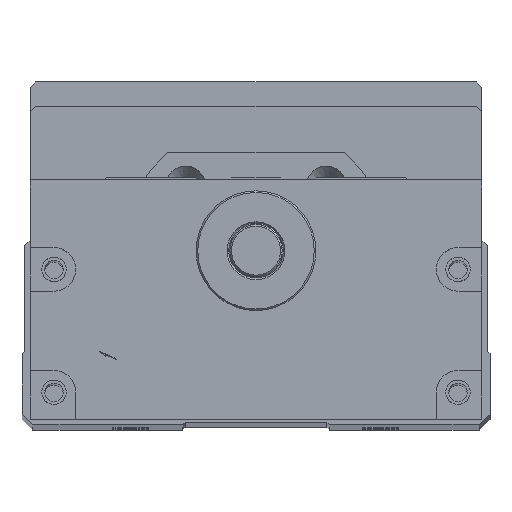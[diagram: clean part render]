
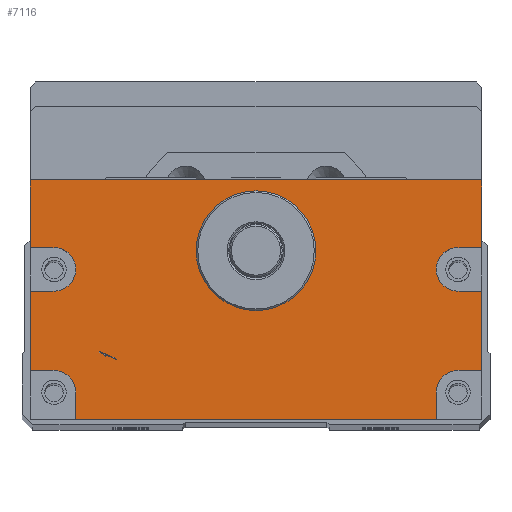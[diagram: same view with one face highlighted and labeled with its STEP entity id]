
A CAD part, top view. The second image highlights one B-rep face of the part: STEP entity #7116.
In plain terms, the highlighted planar face has unit normal (0, 0, 1).
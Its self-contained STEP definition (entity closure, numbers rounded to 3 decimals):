
#545=LINE('',#28115,#1277);
#547=LINE('',#28119,#1279);
#548=LINE('',#28122,#1280);
#549=LINE('',#28124,#1281);
#550=LINE('',#28128,#1282);
#551=LINE('',#28130,#1283);
#552=LINE('',#28131,#1284);
#553=LINE('',#28133,#1285);
#554=LINE('',#28137,#1286);
#555=LINE('',#28139,#1287);
#556=LINE('',#28141,#1288);
#557=LINE('',#28145,#1289);
#558=LINE('',#28147,#1290);
#559=LINE('',#28149,#1291);
#1277=VECTOR('',#16648,1.);
#1279=VECTOR('',#16652,1.);
#1280=VECTOR('',#16653,1.);
#1281=VECTOR('',#16654,1.);
#1282=VECTOR('',#16657,1.);
#1283=VECTOR('',#16658,1.);
#1284=VECTOR('',#16659,1.);
#1285=VECTOR('',#16660,1.);
#1286=VECTOR('',#16663,1.);
#1287=VECTOR('',#16664,1.);
#1288=VECTOR('',#16665,1.);
#1289=VECTOR('',#16668,1.);
#1290=VECTOR('',#16669,1.);
#1291=VECTOR('',#16670,1.);
#6624=FACE_BOUND('',#8550,.T.);
#6625=FACE_BOUND('',#8551,.T.);
#7116=ADVANCED_FACE('',(#6624,#6625),#7609,.T.);
#7609=PLANE('',#15125);
#8550=EDGE_LOOP('',(#10047,#10048,#10049,#10050,#10051,#10052,#10053,#10054,
#10055,#10056,#10057,#10058,#10059,#10060,#10061,#10062,#10063,#10064));
#8551=EDGE_LOOP('',(#10065));
#10047=ORIENTED_EDGE('',*,*,#13421,.F.);
#10048=ORIENTED_EDGE('',*,*,#13422,.T.);
#10049=ORIENTED_EDGE('',*,*,#13423,.F.);
#10050=ORIENTED_EDGE('',*,*,#13424,.F.);
#10051=ORIENTED_EDGE('',*,*,#13425,.F.);
#10052=ORIENTED_EDGE('',*,*,#13426,.T.);
#10053=ORIENTED_EDGE('',*,*,#13419,.T.);
#10054=ORIENTED_EDGE('',*,*,#13427,.T.);
#10055=ORIENTED_EDGE('',*,*,#13428,.F.);
#10056=ORIENTED_EDGE('',*,*,#13429,.F.);
#10057=ORIENTED_EDGE('',*,*,#13430,.F.);
#10058=ORIENTED_EDGE('',*,*,#13431,.T.);
#10059=ORIENTED_EDGE('',*,*,#13432,.F.);
#10060=ORIENTED_EDGE('',*,*,#13433,.F.);
#10061=ORIENTED_EDGE('',*,*,#13434,.F.);
#10062=ORIENTED_EDGE('',*,*,#13435,.T.);
#10063=ORIENTED_EDGE('',*,*,#13436,.F.);
#10064=ORIENTED_EDGE('',*,*,#13437,.F.);
#10065=ORIENTED_EDGE('',*,*,#13405,.T.);
#12270=VERTEX_POINT('',#28086);
#12283=VERTEX_POINT('',#28114);
#12284=VERTEX_POINT('',#28116);
#12285=VERTEX_POINT('',#28120);
#12286=VERTEX_POINT('',#28121);
#12287=VERTEX_POINT('',#28123);
#12288=VERTEX_POINT('',#28125);
#12289=VERTEX_POINT('',#28127);
#12290=VERTEX_POINT('',#28129);
#12291=VERTEX_POINT('',#28132);
#12292=VERTEX_POINT('',#28134);
#12293=VERTEX_POINT('',#28136);
#12294=VERTEX_POINT('',#28138);
#12295=VERTEX_POINT('',#28140);
#12296=VERTEX_POINT('',#28142);
#12297=VERTEX_POINT('',#28144);
#12298=VERTEX_POINT('',#28146);
#12299=VERTEX_POINT('',#28148);
#12300=VERTEX_POINT('',#28150);
#13405=EDGE_CURVE('',#12270,#12270,#14506,.T.);
#13419=EDGE_CURVE('',#12284,#12283,#545,.T.);
#13421=EDGE_CURVE('',#12285,#12286,#547,.T.);
#13422=EDGE_CURVE('',#12285,#12287,#548,.T.);
#13423=EDGE_CURVE('',#12288,#12287,#549,.T.);
#13424=EDGE_CURVE('',#12289,#12288,#14515,.T.);
#13425=EDGE_CURVE('',#12290,#12289,#550,.T.);
#13426=EDGE_CURVE('',#12290,#12284,#551,.T.);
#13427=EDGE_CURVE('',#12283,#12291,#552,.T.);
#13428=EDGE_CURVE('',#12292,#12291,#553,.T.);
#13429=EDGE_CURVE('',#12293,#12292,#14516,.T.);
#13430=EDGE_CURVE('',#12294,#12293,#554,.T.);
#13431=EDGE_CURVE('',#12294,#12295,#555,.T.);
#13432=EDGE_CURVE('',#12296,#12295,#556,.T.);
#13433=EDGE_CURVE('',#12297,#12296,#14517,.T.);
#13434=EDGE_CURVE('',#12298,#12297,#557,.T.);
#13435=EDGE_CURVE('',#12298,#12299,#558,.T.);
#13436=EDGE_CURVE('',#12300,#12299,#559,.T.);
#13437=EDGE_CURVE('',#12286,#12300,#14518,.T.);
#14506=CIRCLE('',#15109,11.);
#14515=CIRCLE('',#15121,4.);
#14516=CIRCLE('',#15122,4.);
#14517=CIRCLE('',#15123,4.);
#14518=CIRCLE('',#15124,4.);
#15109=AXIS2_PLACEMENT_3D('',#28085,#16621,#16622);
#15121=AXIS2_PLACEMENT_3D('',#28126,#16655,#16656);
#15122=AXIS2_PLACEMENT_3D('',#28135,#16661,#16662);
#15123=AXIS2_PLACEMENT_3D('',#28143,#16666,#16667);
#15124=AXIS2_PLACEMENT_3D('',#28151,#16671,#16672);
#15125=AXIS2_PLACEMENT_3D('',#28152,#16673,#16674);
#16621=DIRECTION('',(0.,0.,-1.));
#16622=DIRECTION('',(1.,0.,0.));
#16648=DIRECTION('',(-1.,0.,0.));
#16652=DIRECTION('',(-1.,0.,0.));
#16653=DIRECTION('',(0.,1.,0.));
#16654=DIRECTION('',(1.,0.,0.));
#16655=DIRECTION('',(0.,0.,1.));
#16656=DIRECTION('',(1.,0.,0.));
#16657=DIRECTION('',(-1.,0.,0.));
#16658=DIRECTION('',(0.,1.,0.));
#16659=DIRECTION('',(0.,-1.,0.));
#16660=DIRECTION('',(-1.,0.,0.));
#16661=DIRECTION('',(0.,0.,1.));
#16662=DIRECTION('',(1.,0.,0.));
#16663=DIRECTION('',(1.,0.,0.));
#16664=DIRECTION('',(0.,-1.,0.));
#16665=DIRECTION('',(-1.,0.,0.));
#16666=DIRECTION('',(0.,0.,1.));
#16667=DIRECTION('',(1.,0.,0.));
#16668=DIRECTION('',(0.,1.,0.));
#16669=DIRECTION('',(1.,0.,0.));
#16670=DIRECTION('',(0.,-1.,0.));
#16671=DIRECTION('',(0.,0.,1.));
#16672=DIRECTION('',(1.,0.,0.));
#16673=DIRECTION('',(0.,0.,1.));
#16674=DIRECTION('',(-1.,0.,0.));
#28085=CARTESIAN_POINT('',(450.,0.,382.5));
#28086=CARTESIAN_POINT('',(461.,0.,382.5));
#28114=CARTESIAN_POINT('',(408.5,13.,382.5));
#28115=CARTESIAN_POINT('',(491.5,13.,382.5));
#28116=CARTESIAN_POINT('',(491.5,13.,382.5));
#28119=CARTESIAN_POINT('',(491.5,-22.,382.5));
#28120=CARTESIAN_POINT('',(491.5,-22.,382.5));
#28121=CARTESIAN_POINT('',(487.115,-22.,382.5));
#28122=CARTESIAN_POINT('',(491.5,-31.,382.5));
#28123=CARTESIAN_POINT('',(491.5,-7.431,382.5));
#28124=CARTESIAN_POINT('',(491.5,-7.431,382.5));
#28125=CARTESIAN_POINT('',(487.115,-7.431,382.5));
#28126=CARTESIAN_POINT('',(487.115,-3.431,382.5));
#28127=CARTESIAN_POINT('',(487.115,0.569,382.5));
#28128=CARTESIAN_POINT('',(491.5,0.569,382.5));
#28129=CARTESIAN_POINT('',(491.5,0.569,382.5));
#28130=CARTESIAN_POINT('',(491.5,-31.,382.5));
#28131=CARTESIAN_POINT('',(408.5,27.5,382.5));
#28132=CARTESIAN_POINT('',(408.5,0.569,382.5));
#28133=CARTESIAN_POINT('',(491.5,0.569,382.5));
#28134=CARTESIAN_POINT('',(412.885,0.569,382.5));
#28135=CARTESIAN_POINT('',(412.885,-3.431,382.5));
#28136=CARTESIAN_POINT('',(412.885,-7.431,382.5));
#28137=CARTESIAN_POINT('',(491.5,-7.431,382.5));
#28138=CARTESIAN_POINT('',(408.5,-7.431,382.5));
#28139=CARTESIAN_POINT('',(408.5,27.5,382.5));
#28140=CARTESIAN_POINT('',(408.5,-22.,382.5));
#28141=CARTESIAN_POINT('',(491.5,-22.,382.5));
#28142=CARTESIAN_POINT('',(412.885,-22.,382.5));
#28143=CARTESIAN_POINT('',(412.885,-26.,382.5));
#28144=CARTESIAN_POINT('',(416.885,-26.,382.5));
#28145=CARTESIAN_POINT('',(416.885,-31.,382.5));
#28146=CARTESIAN_POINT('',(416.885,-31.,382.5));
#28147=CARTESIAN_POINT('',(408.5,-31.,382.5));
#28148=CARTESIAN_POINT('',(483.115,-31.,382.5));
#28149=CARTESIAN_POINT('',(483.115,-31.,382.5));
#28150=CARTESIAN_POINT('',(483.115,-26.,382.5));
#28151=CARTESIAN_POINT('',(487.115,-26.,382.5));
#28152=CARTESIAN_POINT('',(491.5,-31.,382.5));
